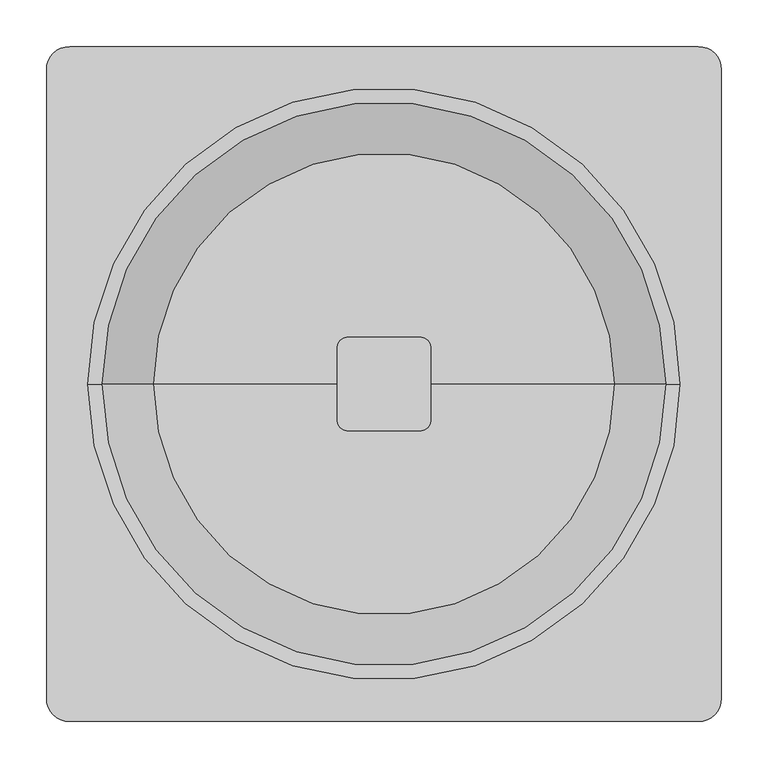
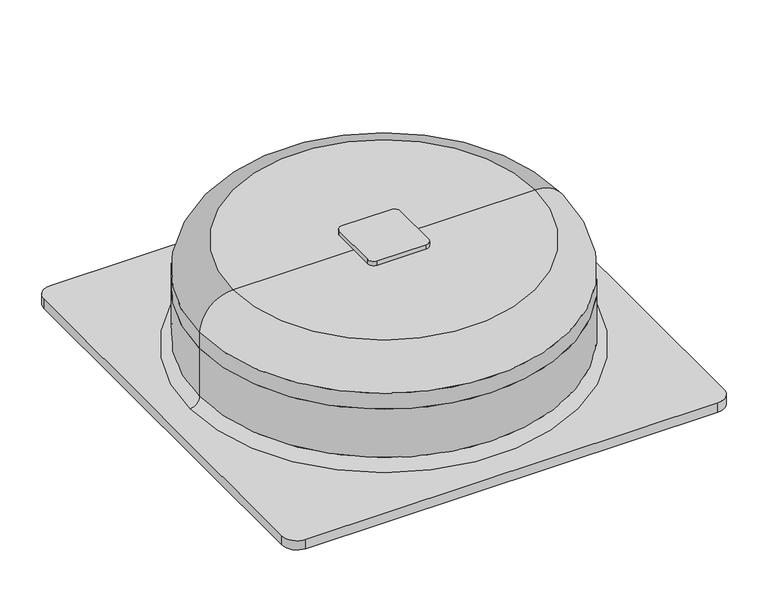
"""IFC4 building model written with IfcOpenShell, lengths in millimetres: unitary equipment geometry, VE-Wentylator-ParaForma-Harmann-WAF-Nawiewny : 560/6/8/8700T."""

from ifc_helpers import new_model, si_unit, point, frame, frame_2d, origin, origin_with_axes, origin_2d, place, context, project, spatial, polyline, circle_curve, ellipse_curve, trimmed, segment, composite_curve, outline, extrude, source, transform, mapped, element, save
from ifc_brep_helpers import plane_surface, cylinder_surface, revolved_surface, advanced_brep


def unitary_equipment_fb63e7d3(model_context):
    return source(origin(), model_context, "Body", "SolidModel", [
        advanced_brep(
        [(302.5, 0.0, 115.3), (0.0, 0.0, 115.3), (-302.5, 0.0, 115.3), (302.5, 0.0, 142.5333333), (-302.5, 0.0, 142.5333333), (248.0333333, 0.0, 197.0), (-248.0333333, 0.0, 197.0), (0.0, 0.0, 197.0)],
        [
            (0, 1),
            (1, 2),
            (2, 0, circle_curve(frame((0.0, 0.0, 115.3), z_axis=(0.0, 0.0, -1.0), x_axis=(-1.0000000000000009, 0.0, 0.0)), 302.5)),
            (0, 2, circle_curve(frame((0.0, 0.0, 115.3), z_axis=(0.0, 0.0, -1.0), x_axis=(-1.0000000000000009, 0.0, 0.0)), 302.5)),
            (3, 0),
            (2, 4),
            (4, 3, circle_curve(frame((0.0, 0.0, 142.5333333), z_axis=(0.0, 0.0, -1.0), x_axis=(-1.0000000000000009, 0.0, 0.0)), 302.5)),
            (3, 4, circle_curve(frame((0.0, 0.0, 142.5333333), z_axis=(0.0, 0.0, -1.0), x_axis=(-1.0000000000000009, 0.0, 0.0)), 302.5)),
            (5, 3, circle_curve(frame((248.0333333, 0.0, 142.5333333), z_axis=(0.0, 1.0000000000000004, 0.0), x_axis=(0.0, 0.0, -1.0000000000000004)), 54.4666667)),
            (4, 6, circle_curve(frame((-248.0333333, 0.0, 142.5333333), z_axis=(0.0, 1.0000000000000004, 0.0), x_axis=(0.0, 0.0, -1.0000000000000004)), 54.4666667)),
            (6, 5, circle_curve(frame((0.0, 0.0, 197.0), z_axis=(0.0, 0.0, -1.0), x_axis=(-1.0000000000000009, 0.0, 0.0)), 248.0333333)),
            (5, 6, circle_curve(frame((0.0, 0.0, 197.0), z_axis=(0.0, 0.0, -1.0), x_axis=(-1.0000000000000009, 0.0, 0.0)), 248.0333333)),
            (7, 5),
            (6, 7),
        ],
        [
            plane_surface(frame((0.0, 0.0, 115.3), z_axis=(0.0, 0.0, -1.0), x_axis=(-1.0, 0.0, 0.0))),
            cylinder_surface(frame((0.0, 0.0, 115.3), z_axis=(0.0, 0.0, 1.0000000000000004), x_axis=(-1.0000000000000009, 0.0, 0.0)), 302.5),
            revolved_surface(trimmed(ellipse_curve(frame((-248.0333333, 0.0, 142.5333333), z_axis=(0.0, 1.0000000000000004, 0.0), x_axis=(0.0, 0.0, -1.0000000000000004)), 54.4666667, 54.4666667), [point((-302.5, 0.0, 142.5333333))], [point((-248.0333333, 0.0, 197.0))], True, "CARTESIAN"), (0.0, 0.0, 115.3), (0.0, 0.0, 1.0000000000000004)),
            plane_surface(frame((0.0, 0.0, 197.0), z_axis=(0.0, 0.0, 1.0), x_axis=(-1.0, 0.0, 0.0))),
        ],
        [
            (0, [[1, 2, 3]]),
            (0, [[-2, -1, 4]]),
            (1, [[5, -3, 6, 7]]),
            (1, [[-6, -4, -5, 8]]),
            (2, [[9, -7, 10, 11]]),
            (2, [[-10, -8, -9, 12]]),
            (3, [[13, -11, 14]]),
            (3, [[-14, -12, -13]]),
        ],
    ),
        advanced_brep(
        [(0.0, 0.0, 115.3), (302.5, 0.0, 115.3), (-302.5, 0.0, 115.3), (318.0, 0.0, 16.0), (0.0, 0.0, 16.0), (-318.0, 0.0, 16.0), (302.5, 0.0, 31.5), (-302.5, 0.0, 31.5)],
        [
            (0, 1),
            (1, 2, circle_curve(frame((0.0, 0.0, 115.3), z_axis=(0.0, 0.0, 1.0), x_axis=(-1.0000000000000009, 0.0, 0.0)), 302.5)),
            (2, 0),
            (2, 1, circle_curve(frame((0.0, 0.0, 115.3), z_axis=(0.0, 0.0, 1.0), x_axis=(-1.0000000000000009, 0.0, 0.0)), 302.5)),
            (3, 4),
            (4, 5),
            (5, 3, circle_curve(frame((0.0, 0.0, 16.0), z_axis=(0.0, 0.0, -1.0), x_axis=(-1.0000000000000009, 0.0, 0.0)), 318.0)),
            (3, 5, circle_curve(frame((0.0, 0.0, 16.0), z_axis=(0.0, 0.0, -1.0), x_axis=(-1.0000000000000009, 0.0, 0.0)), 318.0)),
            (6, 3, circle_curve(frame((318.0, 0.0, 31.5), z_axis=(0.0, -1.0000000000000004, 0.0), x_axis=(0.0, 0.0, -1.0000000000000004)), 15.5)),
            (5, 7, circle_curve(frame((-318.0, 0.0, 31.5), z_axis=(0.0, -1.0000000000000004, 0.0), x_axis=(0.0, 0.0, -1.0000000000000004)), 15.5)),
            (7, 6, circle_curve(frame((0.0, 0.0, 31.5), z_axis=(0.0, 0.0, -1.0), x_axis=(-1.0000000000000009, 0.0, 0.0)), 302.5)),
            (6, 7, circle_curve(frame((0.0, 0.0, 31.5), z_axis=(0.0, 0.0, -1.0), x_axis=(-1.0000000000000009, 0.0, 0.0)), 302.5)),
            (1, 6),
            (7, 2),
        ],
        [
            plane_surface(frame((0.0, 0.0, 115.3), z_axis=(0.0, 0.0, 1.0), x_axis=(-1.0, 0.0, 0.0))),
            plane_surface(frame((0.0, 0.0, 16.0), z_axis=(0.0, 0.0, -1.0), x_axis=(-1.0, 0.0, 0.0))),
            revolved_surface(trimmed(ellipse_curve(frame((-318.0, 0.0, 31.5), z_axis=(0.0, -1.0000000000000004, 0.0), x_axis=(0.0, 0.0, -1.0000000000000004)), 15.5, 15.5), [point((-318.0, 0.0, 16.0))], [point((-302.5, 0.0, 31.5))], True, "CARTESIAN"), (0.0, 0.0, 115.3), (0.0, 0.0, 1.0000000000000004)),
            cylinder_surface(frame((0.0, 0.0, 115.3), z_axis=(0.0, 0.0, 1.0000000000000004), x_axis=(-1.0000000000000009, 0.0, 0.0)), 302.5),
        ],
        [
            (0, [[1, 2, 3]]),
            (0, [[-3, 4, -1]]),
            (1, [[5, 6, 7]]),
            (1, [[-6, -5, 8]]),
            (2, [[9, -7, 10, 11]]),
            (2, [[-10, -8, -9, 12]]),
            (3, [[13, -11, 14, -2]]),
            (3, [[-14, -12, -13, -4]]),
        ],
    ),
        extrude(outline(composite_curve([segment(trimmed(circle_curve(origin_2d(), 50.0), [point((50.0, 0.0))], [point((-50.0, 0.0))], False, "CARTESIAN"), True, "CONTINUOUS"), segment(trimmed(circle_curve(origin_2d(), 50.0), [point((-50.0, 0.0))], [point((50.0, 0.0))], False, "CARTESIAN"), True, "CONTINUOUS")], self_intersect=False)), frame((0.0, 0.0, -2.0), z_axis=(0.0, 0.0, 1.0), x_axis=(1.0, 0.0, 0.0)), (0.0, 0.0, 1.0), 2.0),
        extrude(outline(composite_curve([segment(trimmed(circle_curve(frame_2d((40.0, 40.0)), 10.0), [point((40.0, 50.0))], [point((50.0, 40.0))], False, "CARTESIAN"), True, "CONTINUOUS"), segment(polyline([(50.0, 40.0), (50.0, -40.0)]), True, "CONTINUOUS"), segment(trimmed(circle_curve(frame_2d((40.0, -40.0)), 10.0), [point((50.0, -40.0))], [point((40.0, -50.0))], False, "CARTESIAN"), True, "CONTINUOUS"), segment(polyline([(40.0, -50.0), (-40.0, -50.0)]), True, "CONTINUOUS"), segment(trimmed(circle_curve(frame_2d((-40.0, -40.0)), 10.0), [point((-40.0, -50.0))], [point((-50.0, -40.0))], False, "CARTESIAN"), True, "CONTINUOUS"), segment(polyline([(-50.0, -40.0), (-50.0, 40.0)]), True, "CONTINUOUS"), segment(trimmed(circle_curve(frame_2d((-40.0, 40.0)), 10.0), [point((-50.0, 40.0))], [point((-40.0, 50.0))], False, "CARTESIAN"), True, "CONTINUOUS"), segment(polyline([(-40.0, 50.0), (40.0, 50.0)]), True, "CONTINUOUS")], self_intersect=False)), frame((0.0, 0.0, 197.0), z_axis=(0.0, 0.0, 1.0), x_axis=(1.0, 0.0, 0.0)), (0.0, 0.0, 1.0), 8.0),
        extrude(outline(composite_curve([segment(trimmed(circle_curve(frame_2d((337.5, 337.5)), 25.0), [point((337.5, 362.5))], [point((362.5, 337.5))], False, "CARTESIAN"), True, "CONTINUOUS"), segment(polyline([(362.5, 337.5), (362.5, -337.5)]), True, "CONTINUOUS"), segment(trimmed(circle_curve(frame_2d((337.5, -337.5)), 25.0), [point((362.5, -337.5))], [point((337.5, -362.5))], False, "CARTESIAN"), True, "CONTINUOUS"), segment(polyline([(337.5, -362.5), (-337.5, -362.5)]), True, "CONTINUOUS"), segment(trimmed(circle_curve(frame_2d((-337.5, -337.5)), 25.0), [point((-337.5, -362.5))], [point((-362.5, -337.5))], False, "CARTESIAN"), True, "CONTINUOUS"), segment(polyline([(-362.5, -337.5), (-362.5, 337.5)]), True, "CONTINUOUS"), segment(trimmed(circle_curve(frame_2d((-337.5, 337.5)), 25.0), [point((-362.5, 337.5))], [point((-337.5, 362.5))], False, "CARTESIAN"), True, "CONTINUOUS"), segment(polyline([(-337.5, 362.5), (337.5, 362.5)]), True, "CONTINUOUS")], self_intersect=False)), origin_with_axes(), (0.0, 0.0, 1.0), 16.0),
    ])


if __name__ == "__main__":
    model = new_model("IFC4")
    model_context = context("Model", 3, world=origin())
    ifc_project = project(units=[si_unit("LENGTHUNIT", "METRE", prefix="MILLI")], contexts=[model_context])
    site = spatial("IfcSite", under=ifc_project)
    building = spatial("IfcBuilding", under=site)
    placement = place(None, origin())
    unitary_equipment_shape = unitary_equipment_fb63e7d3(model_context)
    element("IfcUnitaryEquipment", 1, ObjectType="VE-Wentylator-ParaForma-Harmann-WAF-Nawiewny : 560/6/8/8700T", at=placement, inside=building, context=model_context, shape_type="MappedRepresentation", body=[
        mapped(unitary_equipment_shape, transform((0.0, 0.0, 0.0), x_axis=(1.0, 0.0, 0.0), y_axis=(0.0, 1.0, 0.0), z_axis=(0.0, 0.0, 1.0))),
    ])
    save(model, "model.ifc")
